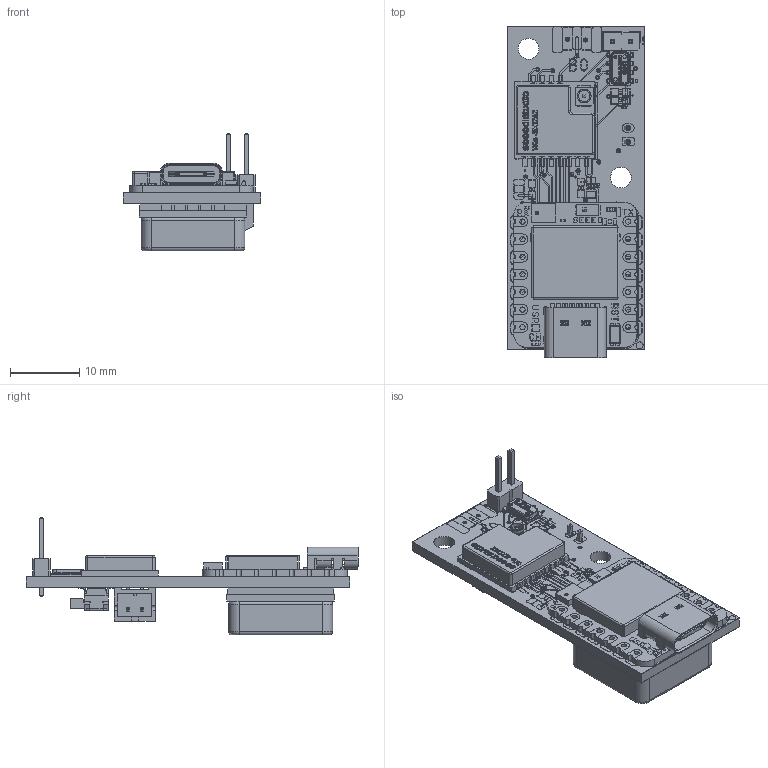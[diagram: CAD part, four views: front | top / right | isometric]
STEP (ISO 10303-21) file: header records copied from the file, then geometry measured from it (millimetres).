
FILE_DESCRIPTION(('KiCad electronic assembly'),'2;1');
FILE_NAME('BRB900L_TX_B0.step','2026-05-25T17:01:30',('Pcbnew'),('Kicad' ),'Open CASCADE STEP processor 7.9','KiCad to STEP converter', 'Unknown');
FILE_SCHEMA(('AUTOMOTIVE_DESIGN { 1 0 10303 214 1 1 1 1 }'));
Length unit declared in the file: millimetre
Products named in the file (63): BRB900L_TX_B0 1; Wio-SX1262_; U.FL Connector v1; COMPOUND; XIAO-nRF52840 v15; USB TYPE C PORT; USB TYPE C PORT (1); BOSS-EXTRUDE14_8_; BOSS-EXTRUDE7_4_; BOSS-EXTRUDE7_3_; BOSS-EXTRUDE14_4_; BOSS-EXTRUDE14_2_; BOSS-EXTRUDE14_11_; BOSS-EXTRUDE7_7_; BOSS-EXTRUDE14_9_; BOSS-EXTRUDE14_3_; BOSS-EXTRUDE14_7_; MIRROR2; BOSS-EXTRUDE14_5_; BOSS-EXTRUDE14_12_; BOSS-EXTRUDE7_8_; BOSS-EXTRUDE7_1_; BOSS-EXTRUDE14_10_; BOSS-EXTRUDE7_9_; BOSS-EXTRUDE14_6_; CHAMFER9; BOSS-EXTRUDE14_1_; BOSS-EXTRUDE7_6_; BOSS-EXTRUDE7_2_; CUT-EXTRUDE5; BOSS-EXTRUDE7_5_; Shield; SKTAAAE010 v1; Body; Pins; PCB (1); CAP; ANT1; Silkscreen; CAP 3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
Assembly tree (63 placements, depth 5):
  BRB900L_TX_B0 1
    Wio-SX1262_
      U.FL Connector v1
      COMPOUND
    XIAO-nRF52840 v15
      USB TYPE C PORT
        USB TYPE C PORT (1)
          BOSS-EXTRUDE14_8_
          BOSS-EXTRUDE7_4_
          BOSS-EXTRUDE7_3_
          BOSS-EXTRUDE14_4_
          BOSS-EXTRUDE14_2_
          BOSS-EXTRUDE14_11_
          BOSS-EXTRUDE7_7_
          BOSS-EXTRUDE14_9_
          BOSS-EXTRUDE14_3_
          BOSS-EXTRUDE14_7_
          MIRROR2
          BOSS-EXTRUDE14_5_
          BOSS-EXTRUDE14_12_
          BOSS-EXTRUDE7_8_
          BOSS-EXTRUDE7_1_
          BOSS-EXTRUDE14_10_
          BOSS-EXTRUDE7_9_
          BOSS-EXTRUDE14_6_
          CHAMFER9
          BOSS-EXTRUDE14_1_
          BOSS-EXTRUDE7_6_
          BOSS-EXTRUDE7_2_
          CUT-EXTRUDE5
          BOSS-EXTRUDE7_5_
      Shield
      SKTAAAE010 v1
        Body
        Pins
      PCB (1)
        CAP  x2
        ANT1
        Silkscreen
        CAP 3
        LED
        USR
        COMPOUND
      MSM261D3526H1CPM
        2 v1
        COMPOUND
    MS5611-01BA03
      COMPOUND
      COMPOUND
    PinHeader_1x02_P2.54mm_Vertical
    JST_PH_S2B-PH-K_1x02_P2.00mm_Horizontal
    SAM-M8Q-0
    CL-SB-22B-11T
      22B-11_c
      2Side setting_s
    BRB900L_TX_B0_copper
    BRB900L_TX_B0_pad
    BRB900L_TX_B0_via
    BRB900L_TX_B0_silkscreen
    BRB900L_TX_B0_silkscreen
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Bounding box: 19.9 x 47.92 x 17.02 mm (x, y, z)
Volume: 3986.5 mm3; surface area: 10378.7 mm2
Topology: 387 solids, 504 shells, 5728 faces, 15967 edges, 11212 vertices
Faces by surface type: plane 4354, cylinder 924, bspline 407, torus 19, sphere 15, cone 9
Full cylindrical faces by diameter (mm): 0.275 x90, 0.3 x47, 0.5 x3, 0.525 x2, 0.6 x52, 0.7 x6, 0.75 x18, 0.8 x1, 0.95 x6, 1 x5, 1.524 x4, 1.65 x1, 1.7 x8, 1.9 x1, 2 x2, 3 x2
Entity records: 196809 total; most frequent: CARTESIAN_POINT 42126, ORIENTED_EDGE 29596, DIRECTION 27789, EDGE_CURVE 15861, LINE 12231, VECTOR 12231, VERTEX_POINT 11148, AXIS2_PLACEMENT_3D 7779
